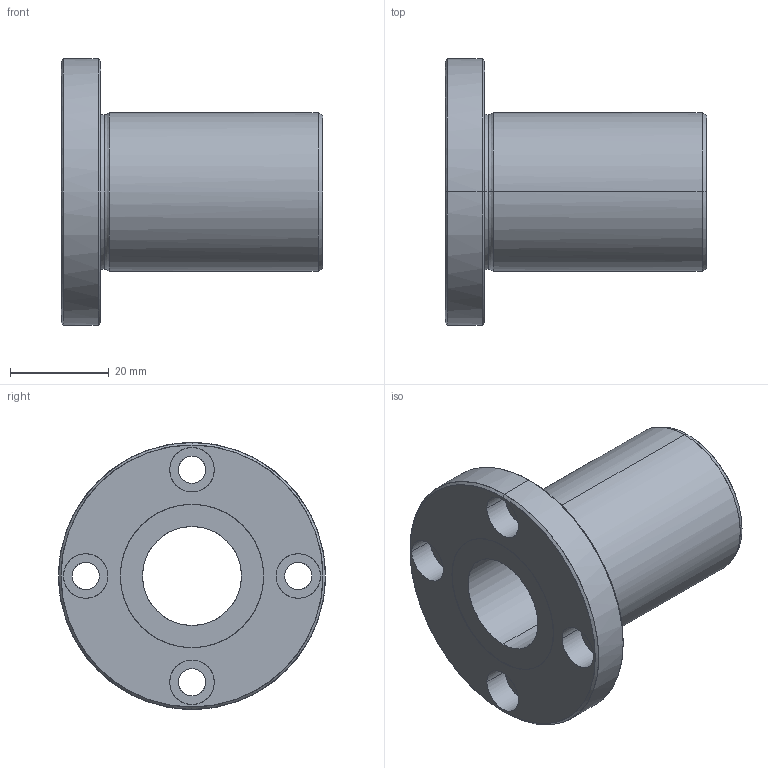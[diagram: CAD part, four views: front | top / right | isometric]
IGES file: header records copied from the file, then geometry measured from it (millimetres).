
Global section: file name: No Iges File Name specified; native system: AutoDesk Inventor R10; preprocessor: AutoDesk Inventor Iges Exporter R10; author: No Author specified; organization: No Organization specified; date: 20101216.173018; units: millimetre
Bounding box: 53 x 54 x 54 mm (x, y, z)
Surface area: 13658.4 mm2 (no closed solid volume)
Topology: 0 solids, 0 shells, 45 faces, 320 edges, 320 vertices
Faces by surface type: bspline 45
